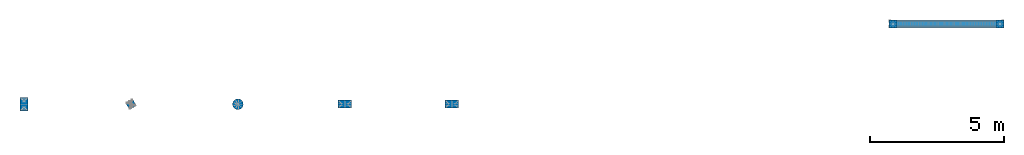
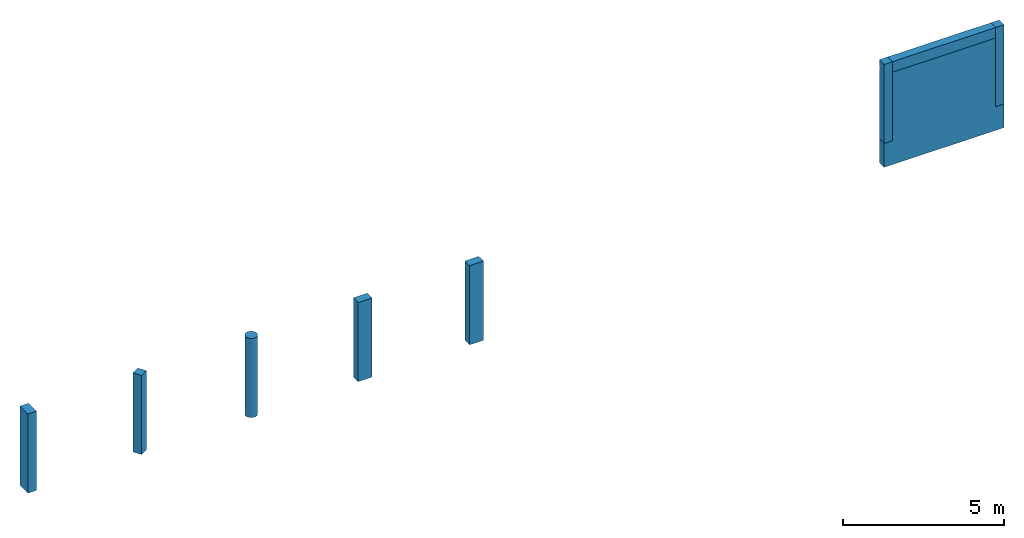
# One storey, part 1 of 11: 7 columns, 1 beam, 1 wall.
"""IFC2X3 building model written with IfcOpenShell, lengths in metres."""

from ifc_helpers import new_model, si_unit, direction, frame, origin, origin_2d_with_axis, place, context, project, spatial, polyline, rectangle, circle, outline, extrude, shape, element, save


model = new_model("IFC2X3")

# Units and contexts
model_context = context("Model", 3, precision=0.0, world=origin(), true_north=direction((0.0, 1.0)))
plan_context = context("Plan", 3, precision=0.0, world=origin(), true_north=direction((0.0, 1.0)))
ifc_project = project(units=[si_unit("LENGTHUNIT", "METRE"), si_unit("AREAUNIT", "SQUARE_METRE"), si_unit("VOLUMEUNIT", "CUBIC_METRE"), si_unit("PLANEANGLEUNIT", "RADIAN"), si_unit("THERMODYNAMICTEMPERATUREUNIT", "DEGREE_CELSIUS"), si_unit("FORCEUNIT", "NEWTON"), si_unit("MASSUNIT", "GRAM", prefix="KILO")], contexts=[model_context, plan_context])

# Site, building, storey
placement = place(None, origin())
site = spatial("IfcSite", under=ifc_project, at=placement, Name="Default Site", CompositionType="ELEMENT")
building = spatial("IfcBuilding", under=site, at=placement, Name="Default Building", CompositionType="ELEMENT")
storey_placement = place(placement, frame((0.0, 0.0, 3.0), z_axis=(1.0, 0.0, 0.0), x_axis=(0.0, 0.0, 1.0)))
storey = spatial("IfcBuildingStorey", under=building, at=storey_placement, Name="Piano 1", CompositionType="ELEMENT", Elevation=3.0)

# Columns
column_1_placement = place(None, frame((0.0, 0.0, 3.0), z_axis=(0.0, 0.0, -1.0), x_axis=(-1.0, 0.0, 0.0)))
element("IfcColumn", 1, at=column_1_placement, inside=storey, Name="Pilastro:1 [Piano:1]", shapes=[
    shape(model_context, None, "SweptSolid", [extrude(rectangle(XDim=0.3, YDim=0.5, at=origin_2d_with_axis()), origin(), (0.0, 0.0, 1.0), 3.0)]),
])
column_2_placement = place(None, frame((4.0, 0.0, 3.0), z_axis=(0.0, 0.0, -1.0), x_axis=(-0.866025, -0.5, 0.0)))
element("IfcColumn", 2, at=column_2_placement, inside=storey, Name="Pilastro:2 [Piano:1]", shapes=[
    shape(model_context, None, "SweptSolid", [extrude(rectangle(XDim=0.3, YDim=0.3, at=origin_2d_with_axis()), origin(), (0.0, 0.0, 1.0), 3.0)]),
])
column_3_placement = place(None, frame((8.0, 0.0, 3.0), z_axis=(0.0, 0.0, -1.0), x_axis=(-1.0, 0.0, 0.0)))
element("IfcColumn", 3, at=column_3_placement, inside=storey, Name="Pilastro:3 [Piano:1]", shapes=[
    shape(model_context, None, "SweptSolid", [extrude(circle(Radius=0.2, at=origin_2d_with_axis()), origin(), (0.0, 0.0, 1.0), 3.0)]),
])
for number, where, z_axis, x_axis, name in (
    (4, (12.0, 0.0, 3.0), (0.0, 0.0, -1.0), (-1.0, 0.0, 0.0), "Pilastro:4 [Piano:1]"),
    (5, (16.0, 0.0, 3.0), (0.0, 0.0, -1.0), (-1.0, 0.0, 0.0), "Pilastro:5 [Piano:1]"),
):
    element("IfcColumn", number, at=place(None, frame(where, z_axis=z_axis, x_axis=x_axis)), inside=storey, Name=name, shapes=[
        shape(model_context, None, "SweptSolid", [extrude(rectangle(XDim=0.5, YDim=0.3, at=origin_2d_with_axis()), origin(), (0.0, 0.0, 1.0), 3.0)]),
    ])
for number, where, z_axis, x_axis, name in (
    (6, (32.5, 3.0, 3.0), (0.0, 0.0, -1.0), (-1.0, 0.0, 0.0), "Pilastro:30 [Piano:1]"),
    (7, (36.5, 3.0, 3.0), (0.0, 0.0, -1.0), (-1.0, 0.0, 0.0), "Pilastro:31 [Piano:1]"),
):
    element("IfcColumn", number, at=place(None, frame(where, z_axis=z_axis, x_axis=x_axis)), inside=storey, Name=name, shapes=[
        shape(model_context, None, "SweptSolid", [extrude(rectangle(XDim=0.3, YDim=0.3, at=origin_2d_with_axis()), origin(), (0.0, 0.0, 1.0), 3.0)]),
    ])

# Beam
beam_placement = place(None, frame((32.35, 3.0, 2.8), z_axis=(1.0, 0.0, 0.0), x_axis=(0.0, 1.0, 0.0)))
element("IfcBeam", 8, at=beam_placement, inside=storey, Name="Trave:1 [Piano:1]", shapes=[
    shape(model_context, None, "SweptSolid", [extrude(rectangle(XDim=0.3, YDim=0.4, at=origin_2d_with_axis()), origin(), (0.0, 0.0, 1.0), 4.3)]),
])

# Wall
wall_placement = place(None, frame((34.5, 2.85, 1.05), z_axis=(0.0, 1.0, 0.0), x_axis=(-1.0, 0.0, 0.0)))
element("IfcWall", 9, at=wall_placement, inside=storey, Name="Parete:1 [Piano:1]", shapes=[
    shape(model_context, None, "SweptSolid", [extrude(outline(polyline([(2.15, 1.95), (-2.15, 1.95), (-2.15, -1.95), (2.15, -1.95)])), origin(), (0.0, 0.0, 1.0), 0.3)]),
])

save(model, "model.ifc")
